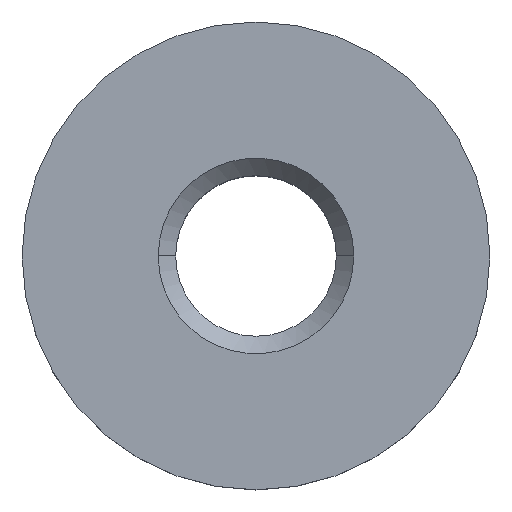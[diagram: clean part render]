
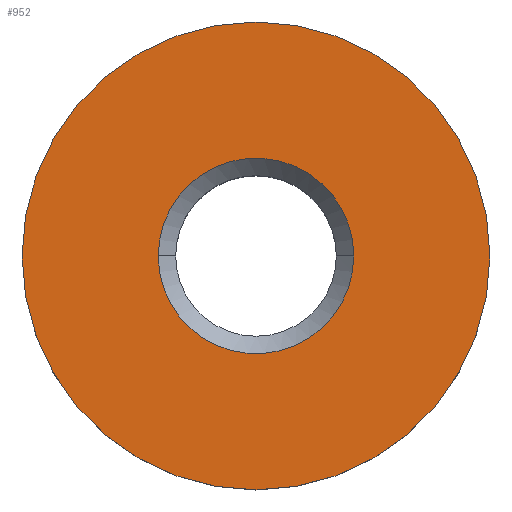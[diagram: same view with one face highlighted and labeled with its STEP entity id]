
A CAD part, top view. The second image highlights one B-rep face of the part: STEP entity #952.
In plain terms, the highlighted planar face has unit normal (0, 0, 1).
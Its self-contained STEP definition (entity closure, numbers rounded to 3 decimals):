
#879=AXIS2_PLACEMENT_3D('Circle Axis2P3D',#877,#878,$) ;
#903=AXIS2_PLACEMENT_3D('Circle Axis2P3D',#901,#902,$) ;
#916=AXIS2_PLACEMENT_3D('Plane Axis2P3D',#913,#914,#915) ;
#874=CARTESIAN_POINT('Vertex',(-6.7,0.,14.2)) ;
#877=CARTESIAN_POINT('Axis2P3D Location',(0.,0.,14.2)) ;
#881=CARTESIAN_POINT('Vertex',(6.7,0.,14.2)) ;
#901=CARTESIAN_POINT('Axis2P3D Location',(0.,0.,14.2)) ;
#913=CARTESIAN_POINT('Axis2P3D Location',(0.,0.,14.2)) ;
#923=CARTESIAN_POINT('Control Point',(-2.8,0.,14.2)) ;
#924=CARTESIAN_POINT('Control Point',(-2.8,-0.88,14.2)) ;
#925=CARTESIAN_POINT('Control Point',(-2.455,-1.759,14.2)) ;
#926=CARTESIAN_POINT('Control Point',(-1.759,-2.455,14.2)) ;
#927=CARTESIAN_POINT('Control Point',(0.,-3.145,14.2)) ;
#928=CARTESIAN_POINT('Control Point',(1.759,-2.455,14.2)) ;
#929=CARTESIAN_POINT('Control Point',(2.455,-1.759,14.2)) ;
#930=CARTESIAN_POINT('Control Point',(2.8,-0.88,14.2)) ;
#931=CARTESIAN_POINT('Control Point',(2.8,0.,14.2)) ;
#932=CARTESIAN_POINT('Vertex',(-2.8,0.,14.2)) ;
#934=CARTESIAN_POINT('Vertex',(2.8,0.,14.2)) ;
#938=CARTESIAN_POINT('Control Point',(2.8,0.,14.2)) ;
#939=CARTESIAN_POINT('Control Point',(2.8,0.88,14.2)) ;
#940=CARTESIAN_POINT('Control Point',(2.455,1.759,14.2)) ;
#941=CARTESIAN_POINT('Control Point',(1.759,2.455,14.2)) ;
#942=CARTESIAN_POINT('Control Point',(0.,3.145,14.2)) ;
#943=CARTESIAN_POINT('Control Point',(-1.759,2.455,14.2)) ;
#944=CARTESIAN_POINT('Control Point',(-2.455,1.759,14.2)) ;
#945=CARTESIAN_POINT('Control Point',(-2.8,0.88,14.2)) ;
#946=CARTESIAN_POINT('Control Point',(-2.8,0.,14.2)) ;
#878=DIRECTION('Axis2P3D Direction',(0.,0.,1.)) ;
#902=DIRECTION('Axis2P3D Direction',(0.,0.,1.)) ;
#914=DIRECTION('Axis2P3D Direction',(0.,0.,1.)) ;
#915=DIRECTION('Axis2P3D XDirection',(1.,0.,0.)) ;
#919=ORIENTED_EDGE('',*,*,#905,.T.) ;
#920=ORIENTED_EDGE('',*,*,#883,.T.) ;
#949=ORIENTED_EDGE('',*,*,#936,.F.) ;
#950=ORIENTED_EDGE('',*,*,#947,.F.) ;
#951=FACE_BOUND('',#948,.T.) ;
#952=ADVANCED_FACE('\X2\96F64EF651E04F554F53\X0\',(#921,#951),#917,.T.) ;
#922=B_SPLINE_CURVE_WITH_KNOTS('',5,(#923,#924,#925,#926,#927,#928,#929,#930,#931),.UNSPECIFIED.,.F.,.U.,(6,3,6),(8.796,13.195,17.593),.UNSPECIFIED.) ;
#937=B_SPLINE_CURVE_WITH_KNOTS('',5,(#938,#939,#940,#941,#942,#943,#944,#945,#946),.UNSPECIFIED.,.F.,.U.,(6,3,6),(17.593,21.991,26.389),.UNSPECIFIED.) ;
#880=CIRCLE('generated circle',#879,6.7) ;
#904=CIRCLE('generated circle',#903,6.7) ;
#883=EDGE_CURVE('',#882,#875,#880,.T.) ;
#905=EDGE_CURVE('',#875,#882,#904,.T.) ;
#936=EDGE_CURVE('',#933,#935,#922,.T.) ;
#947=EDGE_CURVE('',#935,#933,#937,.T.) ;
#918=EDGE_LOOP('',(#919,#920)) ;
#948=EDGE_LOOP('',(#949,#950)) ;
#921=FACE_OUTER_BOUND('',#918,.T.) ;
#917=PLANE('',#916) ;
#875=VERTEX_POINT('',#874) ;
#882=VERTEX_POINT('',#881) ;
#933=VERTEX_POINT('',#932) ;
#935=VERTEX_POINT('',#934) ;
